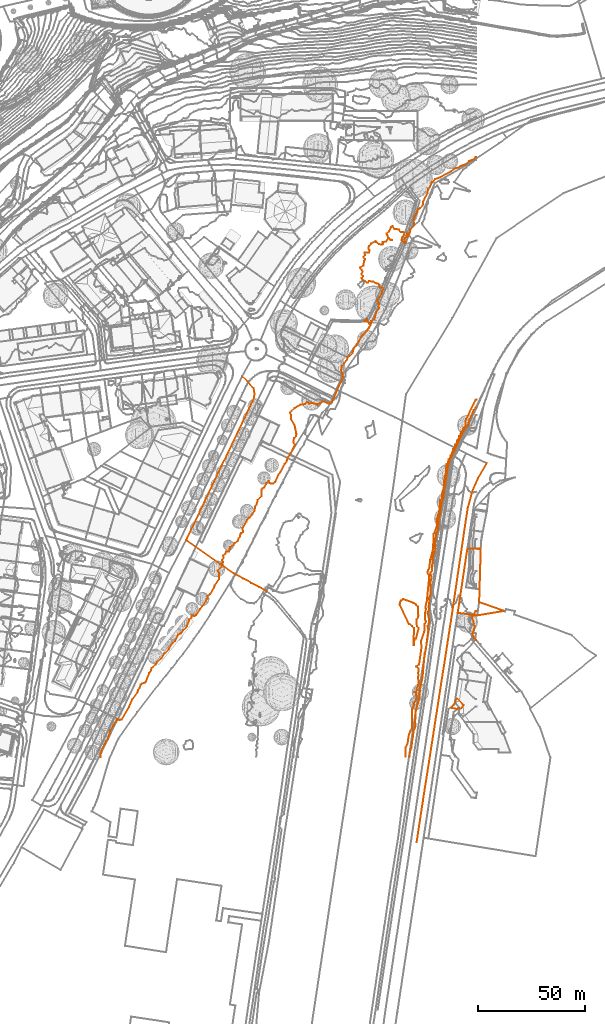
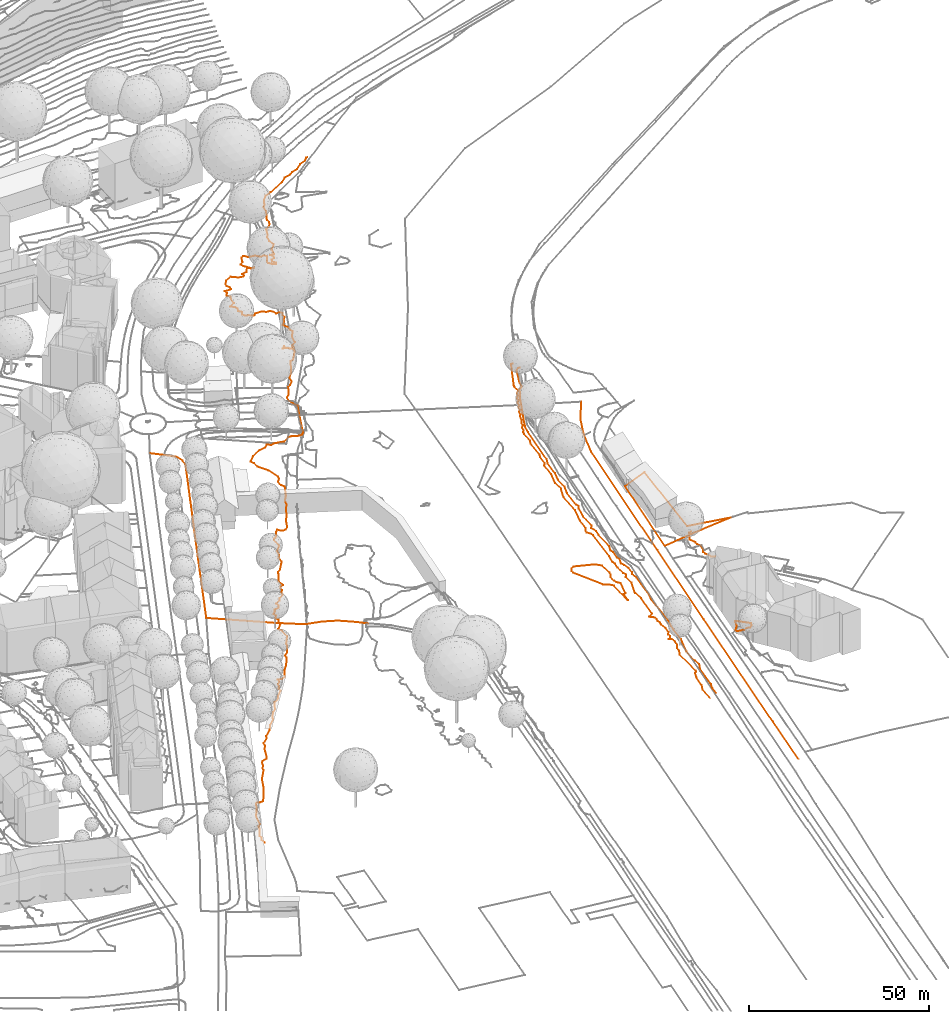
# Not in any storey, part 132 of 494: 11 proxies.
"""IFC2X3 model written with IfcOpenShell, lengths in metres."""

from ifc_helpers import new_model, entity, si_unit, frame, origin_with_axes, place, context, subcontext, project, element, save


model = new_model("IFC2X3")

# Units and contexts
model_context = context("Model", 3, precision=1e-05, world=origin_with_axes())
body_context = subcontext(model_context, "Body", "Model", "MODEL_VIEW")
ifc_project = project(units=[si_unit("AREAUNIT", "SQUARE_METRE"), si_unit("LENGTHUNIT", "METRE")], contexts=[model_context])

# Proxies
proxy_1_placement = place(None, frame((551.9337320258, 100.384740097, 502.425), z_axis=(0.0, 0.0, 1.0), x_axis=(1.0, 0.0, 0.0)))
element("IfcBuildingElementProxy", 1, at=proxy_1_placement, Name="Road 98", ObjectType="NOTDEFINED", context=body_context, shape_type="GeometricCurveSet", body=[
    entity("IfcGeometricCurveSet", [entity("IfcPolyline", [entity("IfcCartesianPoint", [22.561999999, -15.6589995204, -0.541]), entity("IfcCartesianPoint", [15.8319999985, -11.2329996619, -0.436]), entity("IfcCartesianPoint", [0.0, 0.0, 0.0])])]),
])
proxy_2_placement = place(None, frame((659.968732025, -41.4032555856, 502.684), z_axis=(0.0, 0.0, 1.0), x_axis=(1.0, 0.0, 0.0)))
element("IfcBuildingElementProxy", 2, at=proxy_2_placement, Name="Road 166", ObjectType="NOTDEFINED", context=body_context, shape_type="GeometricCurveSet", body=[
    entity("IfcGeometricCurveSet", [entity("IfcPolyline", [entity("IfcCartesianPoint", [0.0, 0.0, 0.0]), entity("IfcCartesianPoint", [2.9470000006, 19.4279994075, -0.104]), entity("IfcCartesianPoint", [11.1699999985, 72.1449978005, -0.144]), entity("IfcCartesianPoint", [16.6039999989, 107.2399967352, 0.012]), entity("IfcCartesianPoint", [23.9450000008, 156.7279952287, 0.844]), entity("IfcCartesianPoint", [26.1490000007, 164.8039949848, 1.302]), entity("IfcCartesianPoint", [28.7919999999, 170.9719947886, 1.366]), entity("IfcCartesianPoint", [32.9029999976, 177.8729945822, 1.809])])]),
])
proxy_3_placement = place(None, frame((574.4957320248, 84.7257405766, 501.884), z_axis=(0.0, 0.0, 1.0), x_axis=(1.0, 0.0, 0.0)))
element("IfcBuildingElementProxy", 3, at=proxy_3_placement, Name="Road 167", ObjectType="NOTDEFINED", context=body_context, shape_type="GeometricCurveSet", body=[
    entity("IfcGeometricCurveSet", [entity("IfcPolyline", [entity("IfcCartesianPoint", [15.4129999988, -8.3829997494, 0.0]), entity("IfcCartesianPoint", [11.6829999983, -6.1879998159, 0.537]), entity("IfcCartesianPoint", [7.993999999, -4.3449998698, 1.073]), entity("IfcCartesianPoint", [4.1810000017, -2.2379999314, 0.805]), entity("IfcCartesianPoint", [0.0, 0.0, 0.0])])]),
])
proxy_4_placement = place(None, frame((551.9337320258, 100.384740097, 502.425), z_axis=(0.0, 0.0, 1.0), x_axis=(1.0, 0.0, 0.0)))
element("IfcBuildingElementProxy", 4, at=proxy_4_placement, Name="Road 177", ObjectType="NOTDEFINED", context=body_context, shape_type="GeometricCurveSet", body=[
    entity("IfcGeometricCurveSet", [entity("IfcPolyline", [entity("IfcCartesianPoint", [26.3079999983, 77.0309976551, -0.082]), entity("IfcCartesianPoint", [29.3239999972, 73.9229977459, 0.118]), entity("IfcCartesianPoint", [31.6259999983, 71.2239978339, 0.334]), entity("IfcCartesianPoint", [32.1019999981, 68.8429979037, 0.391]), entity("IfcCartesianPoint", [31.8640000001, 66.8589979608, 0.402]), entity("IfcCartesianPoint", [30.248999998, 63.289998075, 0.163]), entity("IfcCartesianPoint", [14.3900000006, 30.2499990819, 0.15]), entity("IfcCartesianPoint", [0.0, 0.0, 0.0])])]),
])
proxy_5_placement = place(None, frame((679.2537320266, 66.3477160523, 502.9145301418), z_axis=(0.0, 0.0, 1.0), x_axis=(1.0, 0.0, 0.0)))
element("IfcBuildingElementProxy", 5, at=proxy_5_placement, Name="Cadastre 144", ObjectType="NOTDEFINED", context=body_context, shape_type="GeometricCurveSet", body=[
    entity("IfcGeometricCurveSet", [entity("IfcPolyline", [entity("IfcCartesianPoint", [0.0, 0.0, 0.0]), entity("IfcCartesianPoint", [4.5280000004, 29.996, 0.5515486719]), entity("IfcCartesianPoint", [10.821, 30.1060000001, 3.0081534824]), entity("IfcCartesianPoint", [10.068, 5.003, 0.1758592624]), entity("IfcCartesianPoint", [21.6180000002, 0.888, 1.5063481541]), entity("IfcCartesianPoint", [8.568, -1.2889999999, 2.2475080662]), entity("IfcCartesianPoint", [0.0, 0.0, 0.0])])]),
])
proxy_6_placement = place(None, frame((686.0070766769, 64.1707160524, 504.0), z_axis=(0.0, 0.0, 1.0), x_axis=(1.0, 0.0, 0.0)))
element("IfcBuildingElementProxy", 6, at=proxy_6_placement, Name="Contour Line 504.0 m", ObjectType="NOTDEFINED", context=body_context, shape_type="GeometricCurveSet", body=[
    entity("IfcGeometricCurveSet", [entity("IfcPolyline", [entity("IfcCartesianPoint", [2.1706553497, -10.5457437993, 0.0]), entity("IfcCartesianPoint", [1.6706553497, -10.5457437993, 0.0]), entity("IfcCartesianPoint", [1.0895399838, -10.0, 0.0]), entity("IfcCartesianPoint", [0.3049268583, -8.0, 0.0]), entity("IfcCartesianPoint", [0.2824842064, -7.0, 0.0]), entity("IfcCartesianPoint", [0.865076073, -6.0, 0.0]), entity("IfcCartesianPoint", [1.1362149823, -4.0, 0.0]), entity("IfcCartesianPoint", [0.6549505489, -3.0, 0.0]), entity("IfcCartesianPoint", [0.767345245, -2.0, 0.0]), entity("IfcCartesianPoint", [0.0, 0.0, 0.0]), entity("IfcCartesianPoint", [1.5642024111, 3.0, 0.0]), entity("IfcCartesianPoint", [2.1706553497, 3.1080032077, 0.0])])]),
])
proxy_7_placement = place(None, frame((652.0943986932, 70.1707160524, 501.0), z_axis=(0.0, 0.0, 1.0), x_axis=(1.0, 0.0, 0.0)))
element("IfcBuildingElementProxy", 7, at=proxy_7_placement, Name="Contour Line 501.0 m", ObjectType="NOTDEFINED", context=body_context, shape_type="GeometricCurveSet", body=[
    entity("IfcGeometricCurveSet", [entity("IfcPolyline", [entity("IfcCartesianPoint", [6.6448948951, -19.0, 0.0]), entity("IfcCartesianPoint", [6.4464385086, -19.0, 0.0]), entity("IfcCartesianPoint", [6.6758566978, -11.0, 0.0]), entity("IfcCartesianPoint", [5.8268566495, -10.0, 0.0]), entity("IfcCartesianPoint", [4.3194444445, -9.0, 0.0]), entity("IfcCartesianPoint", [0.0, 0.0, 0.0]), entity("IfcCartesianPoint", [0.0947619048, 1.0, 0.0]), entity("IfcCartesianPoint", [0.5833333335, 2.032715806, 0.0]), entity("IfcCartesianPoint", [1.5833333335, 2.5795454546, 0.0]), entity("IfcCartesianPoint", [6.5833333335, 0.75, 0.0]), entity("IfcCartesianPoint", [7.5833333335, 0.1531531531, 0.0]), entity("IfcCartesianPoint", [8.599937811, -1.0, 0.0]), entity("IfcCartesianPoint", [8.7090065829, -5.0, 0.0]), entity("IfcCartesianPoint", [8.5833333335, -5.9773123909, 0.0]), entity("IfcCartesianPoint", [7.9862345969, -7.0, 0.0]), entity("IfcCartesianPoint", [7.8399562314, -9.0, 0.0]), entity("IfcCartesianPoint", [8.1255510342, -10.0, 0.0]), entity("IfcCartesianPoint", [8.8925960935, -11.0, 0.0]), entity("IfcCartesianPoint", [7.5833333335, -15.803514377, 0.0]), entity("IfcCartesianPoint", [6.9290780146, -16.0, 0.0]), entity("IfcCartesianPoint", [6.6448948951, -19.0, 0.0])])]),
])
proxy_8_placement = place(None, frame((676.3772613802, 22.1707160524, 502.0), z_axis=(0.0, 0.0, 1.0), x_axis=(1.0, 0.0, 0.0)))
element("IfcBuildingElementProxy", 8, at=proxy_8_placement, Name="Contour Line 502.0 m", ObjectType="NOTDEFINED", context=body_context, shape_type="GeometricCurveSet", body=[
    entity("IfcGeometricCurveSet", [entity("IfcPolyline", [entity("IfcCartesianPoint", [4.3004706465, -0.7370658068, 0.0]), entity("IfcCartesianPoint", [5.1871067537, 0.0, 0.0]), entity("IfcCartesianPoint", [5.542231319, 1.0, 0.0]), entity("IfcCartesianPoint", [2.3004706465, 4.0984308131, 0.0]), entity("IfcCartesianPoint", [1.5625724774, 2.0, 0.0]), entity("IfcCartesianPoint", [0.0, 0.0, 0.0]), entity("IfcCartesianPoint", [0.3004706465, -0.4796362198, 0.0]), entity("IfcCartesianPoint", [2.3004706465, -0.8925245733, 0.0]), entity("IfcCartesianPoint", [3.3004706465, -0.4028328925, 0.0]), entity("IfcCartesianPoint", [4.3004706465, -0.7370658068, 0.0])])]),
])
proxy_9_placement = place(None, frame((654.7189893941, -1.3292839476, 501.0), z_axis=(0.0, 0.0, 1.0), x_axis=(1.0, 0.0, 0.0)))
element("IfcBuildingElementProxy", 9, at=proxy_9_placement, Name="Contour Line 501.0 m", ObjectType="NOTDEFINED", context=body_context, shape_type="GeometricCurveSet", body=[
    entity("IfcGeometricCurveSet", [entity("IfcPolyline", [entity("IfcCartesianPoint", [0.0, 0.0, 0.0]), entity("IfcCartesianPoint", [0.1861588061, 4.5, 0.0]), entity("IfcCartesianPoint", [1.0192830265, 6.5, 0.0]), entity("IfcCartesianPoint", [1.6712001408, 10.5, 0.0]), entity("IfcCartesianPoint", [2.3526327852, 12.5, 0.0]), entity("IfcCartesianPoint", [2.9587426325, 12.9377934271, 0.0]), entity("IfcCartesianPoint", [3.1498076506, 13.5, 0.0]), entity("IfcCartesianPoint", [3.2181063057, 22.5, 0.0]), entity("IfcCartesianPoint", [3.9587426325, 24.1120035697, 0.0]), entity("IfcCartesianPoint", [4.1578762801, 25.5, 0.0]), entity("IfcCartesianPoint", [4.9587426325, 26.9393692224, 0.0]), entity("IfcCartesianPoint", [5.2540666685, 28.5, 0.0]), entity("IfcCartesianPoint", [4.9587426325, 30.1140042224, 0.0]), entity("IfcCartesianPoint", [4.3128786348, 30.5, 0.0]), entity("IfcCartesianPoint", [4.9587426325, 30.8105889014, 0.0]), entity("IfcCartesianPoint", [5.3770915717, 31.5, 0.0]), entity("IfcCartesianPoint", [5.2492297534, 32.5, 0.0]), entity("IfcCartesianPoint", [5.9995063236, 33.5, 0.0]), entity("IfcCartesianPoint", [6.2033440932, 35.5, 0.0]), entity("IfcCartesianPoint", [5.9461648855, 37.5, 0.0]), entity("IfcCartesianPoint", [6.2016953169, 38.5, 0.0]), entity("IfcCartesianPoint", [5.9613742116, 39.5, 0.0]), entity("IfcCartesianPoint", [6.2615299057, 40.5, 0.0]), entity("IfcCartesianPoint", [6.1097834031, 41.5, 0.0]), entity("IfcCartesianPoint", [5.0054073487, 42.5, 0.0]), entity("IfcCartesianPoint", [6.4201882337, 43.5, 0.0]), entity("IfcCartesianPoint", [7.5874541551, 51.5, 0.0]), entity("IfcCartesianPoint", [7.3612200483, 54.5, 0.0]), entity("IfcCartesianPoint", [8.9587426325, 59.2462576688, 0.0]), entity("IfcCartesianPoint", [9.0309288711, 62.5, 0.0]), entity("IfcCartesianPoint", [9.692598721, 63.5, 0.0]), entity("IfcCartesianPoint", [9.313280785, 64.5, 0.0]), entity("IfcCartesianPoint", [9.229755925, 67.5, 0.0]), entity("IfcCartesianPoint", [9.6355398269, 69.5, 0.0]), entity("IfcCartesianPoint", [9.3957779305, 70.5, 0.0]), entity("IfcCartesianPoint", [10.083320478, 73.5, 0.0]), entity("IfcCartesianPoint", [11.2067303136, 84.5, 0.0]), entity("IfcCartesianPoint", [11.0092655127, 85.5, 0.0]), entity("IfcCartesianPoint", [10.3364119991, 86.5, 0.0]), entity("IfcCartesianPoint", [10.5471215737, 87.5, 0.0]), entity("IfcCartesianPoint", [11.1857009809, 88.5, 0.0]), entity("IfcCartesianPoint", [11.6531922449, 92.5, 0.0]), entity("IfcCartesianPoint", [12.9799800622, 97.5, 0.0]), entity("IfcCartesianPoint", [13.308264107, 104.5, 0.0]), entity("IfcCartesianPoint", [14.7868592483, 108.5, 0.0]), entity("IfcCartesianPoint", [14.7161625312, 111.5, 0.0]), entity("IfcCartesianPoint", [15.9587426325, 115.9109543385, 0.0]), entity("IfcCartesianPoint", [16.3830432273, 120.5, 0.0]), entity("IfcCartesianPoint", [17.1357897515, 121.5, 0.0]), entity("IfcCartesianPoint", [17.3401966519, 124.5, 0.0]), entity("IfcCartesianPoint", [17.9587426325, 125.7995361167, 0.0]), entity("IfcCartesianPoint", [18.3416618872, 131.5, 0.0]), entity("IfcCartesianPoint", [18.9587426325, 132.8432852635, 0.0]), entity("IfcCartesianPoint", [19.2085448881, 136.5, 0.0]), entity("IfcCartesianPoint", [19.4245384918, 137.5, 0.0]), entity("IfcCartesianPoint", [19.9587426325, 138.035171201, 0.0]), entity("IfcCartesianPoint", [20.2469040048, 139.5, 0.0]), entity("IfcCartesianPoint", [20.9587426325, 140.3407645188, 0.0]), entity("IfcCartesianPoint", [21.1934048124, 141.5, 0.0]), entity("IfcCartesianPoint", [21.9587426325, 142.6786762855, 0.0]), entity("IfcCartesianPoint", [22.428460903, 144.5, 0.0]), entity("IfcCartesianPoint", [22.9587426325, 145.0289729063, 0.0]), entity("IfcCartesianPoint", [23.3146253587, 146.5, 0.0]), entity("IfcCartesianPoint", [23.9587426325, 147.1382577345, 0.0]), entity("IfcCartesianPoint", [24.2854182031, 148.5, 0.0]), entity("IfcCartesianPoint", [24.9587426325, 149.2314033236, 0.0]), entity("IfcCartesianPoint", [25.219486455, 150.5, 0.0]), entity("IfcCartesianPoint", [25.9587426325, 151.4485985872, 0.0]), entity("IfcCartesianPoint", [26.2018128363, 152.5, 0.0]), entity("IfcCartesianPoint", [26.9883266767, 153.5, 0.0]), entity("IfcCartesianPoint", [27.2685391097, 154.5, 0.0]), entity("IfcCartesianPoint", [28.2082158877, 155.5, 0.0]), entity("IfcCartesianPoint", [28.1526992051, 157.5, 0.0]), entity("IfcCartesianPoint", [28.5525394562, 158.5, 0.0]), entity("IfcCartesianPoint", [32.8610063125, 167.5, 0.0]), entity("IfcCartesianPoint", [33.4587426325, 167.6677715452, 0.0])])]),
])
proxy_10_placement = place(None, frame((511.7919351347, 0.1707160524, 502.0), z_axis=(0.0, 0.0, 1.0), x_axis=(1.0, 0.0, 0.0)))
element("IfcBuildingElementProxy", 10, at=proxy_10_placement, Name="Contour Line 502.0 m", ObjectType="NOTDEFINED", context=body_context, shape_type="GeometricCurveSet", body=[
    entity("IfcGeometricCurveSet", [entity("IfcPolyline", [entity("IfcCartesianPoint", [176.385796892, 279.8864550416, 0.0]), entity("IfcCartesianPoint", [175.885796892, 279.8864550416, 0.0]), entity("IfcCartesianPoint", [174.885796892, 278.7788389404, 0.0]), entity("IfcCartesianPoint", [172.885796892, 278.0090628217, 0.0]), entity("IfcCartesianPoint", [170.885796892, 276.3150613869, 0.0]), entity("IfcCartesianPoint", [168.885796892, 275.7018356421, 0.0]), entity("IfcCartesianPoint", [167.885796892, 274.9087447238, 0.0]), entity("IfcCartesianPoint", [165.885796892, 274.4529287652, 0.0]), entity("IfcCartesianPoint", [164.1430818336, 273.0, 0.0]), entity("IfcCartesianPoint", [158.885796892, 270.236204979, 0.0]), entity("IfcCartesianPoint", [156.885796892, 269.4977205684, 0.0]), entity("IfcCartesianPoint", [155.4767943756, 268.0, 0.0]), entity("IfcCartesianPoint", [154.482165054, 266.0, 0.0]), entity("IfcCartesianPoint", [153.6249102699, 265.0, 0.0]), entity("IfcCartesianPoint", [153.2908210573, 263.0, 0.0]), entity("IfcCartesianPoint", [151.2502983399, 259.0, 0.0]), entity("IfcCartesianPoint", [151.3030442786, 258.0, 0.0]), entity("IfcCartesianPoint", [150.9619360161, 257.0, 0.0]), entity("IfcCartesianPoint", [149.885796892, 255.9105575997, 0.0]), entity("IfcCartesianPoint", [148.885796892, 255.3437175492, 0.0]), entity("IfcCartesianPoint", [148.0087588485, 253.0, 0.0]), entity("IfcCartesianPoint", [147.2869256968, 252.0, 0.0]), entity("IfcCartesianPoint", [146.8161815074, 250.0, 0.0]), entity("IfcCartesianPoint", [147.0707393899, 248.0, 0.0]), entity("IfcCartesianPoint", [145.3021683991, 246.0, 0.0]), entity("IfcCartesianPoint", [144.885796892, 243.922310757, 0.0]), entity("IfcCartesianPoint", [143.6581904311, 244.0, 0.0]), entity("IfcCartesianPoint", [144.079176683, 243.0, 0.0]), entity("IfcCartesianPoint", [143.885796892, 242.2487309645, 0.0]), entity("IfcCartesianPoint", [142.885796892, 241.8047079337, 0.0]), entity("IfcCartesianPoint", [142.4894894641, 241.0, 0.0]), entity("IfcCartesianPoint", [143.1498711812, 240.0, 0.0]), entity("IfcCartesianPoint", [142.885796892, 239.4792064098, 0.0]), entity("IfcCartesianPoint", [141.9684581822, 240.0, 0.0]), entity("IfcCartesianPoint", [141.169910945, 241.0, 0.0]), entity("IfcCartesianPoint", [141.4166957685, 242.0, 0.0]), entity("IfcCartesianPoint", [142.5594941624, 244.0, 0.0]), entity("IfcCartesianPoint", [141.885796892, 244.769666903, 0.0]), entity("IfcCartesianPoint", [140.885796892, 244.5820528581, 0.0]), entity("IfcCartesianPoint", [139.885796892, 245.7989468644, 0.0]), entity("IfcCartesianPoint", [137.885796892, 246.1899482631, 0.0]), entity("IfcCartesianPoint", [136.885796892, 247.4192691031, 0.0]), entity("IfcCartesianPoint", [136.1654772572, 247.0, 0.0]), entity("IfcCartesianPoint", [135.2984589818, 245.0, 0.0]), entity("IfcCartesianPoint", [134.1884788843, 244.0, 0.0]), entity("IfcCartesianPoint", [134.5166155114, 243.0, 0.0]), entity("IfcCartesianPoint", [135.885796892, 241.1721854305, 0.0]), entity("IfcCartesianPoint", [136.6857968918, 241.0, 0.0]), entity("IfcCartesianPoint", [135.885796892, 240.9545454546, 0.0]), entity("IfcCartesianPoint", [134.885796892, 241.8002270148, 0.0]), entity("IfcCartesianPoint", [133.885796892, 240.2342487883, 0.0]), entity("IfcCartesianPoint", [132.3119244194, 240.0, 0.0]), entity("IfcCartesianPoint", [132.4001118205, 239.0, 0.0]), entity("IfcCartesianPoint", [131.885796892, 238.7138794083, 0.0]), entity("IfcCartesianPoint", [130.613587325, 239.0, 0.0]), entity("IfcCartesianPoint", [129.1207273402, 240.0, 0.0]), entity("IfcCartesianPoint", [128.885796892, 240.4662576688, 0.0]), entity("IfcCartesianPoint", [126.885796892, 239.3730272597, 0.0]), entity("IfcCartesianPoint", [125.7955138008, 238.0, 0.0]), entity("IfcCartesianPoint", [125.6628749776, 237.0, 0.0]), entity("IfcCartesianPoint", [126.0979740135, 236.0, 0.0]), entity("IfcCartesianPoint", [125.885796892, 235.0980392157, 0.0]), entity("IfcCartesianPoint", [123.885796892, 235.1536050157, 0.0]), entity("IfcCartesianPoint", [123.9622431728, 234.0, 0.0]), entity("IfcCartesianPoint", [123.3170236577, 233.0, 0.0]), entity("IfcCartesianPoint", [123.9716411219, 232.0, 0.0]), entity("IfcCartesianPoint", [123.5412022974, 231.0, 0.0]), entity("IfcCartesianPoint", [123.3306157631, 229.0, 0.0]), entity("IfcCartesianPoint", [121.6032361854, 228.0, 0.0]), entity("IfcCartesianPoint", [122.5026447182, 227.0, 0.0]), entity("IfcCartesianPoint", [122.885796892, 226.1075949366, 0.0]), entity("IfcCartesianPoint", [122.3356508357, 225.0, 0.0]), entity("IfcCartesianPoint", [123.1435488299, 224.0, 0.0]), entity("IfcCartesianPoint", [122.4447591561, 223.0, 0.0]), entity("IfcCartesianPoint", [122.885796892, 222.1220657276, 0.0]), entity("IfcCartesianPoint", [123.885796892, 221.7327935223, 0.0]), entity("IfcCartesianPoint", [124.885796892, 220.8897849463, 0.0]), entity("IfcCartesianPoint", [125.3517059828, 221.0, 0.0]), entity("IfcCartesianPoint", [125.885796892, 221.6103896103, 0.0]), entity("IfcCartesianPoint", [127.885796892, 221.5230088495, 0.0]), entity("IfcCartesianPoint", [128.885796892, 220.6598101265, 0.0]), entity("IfcCartesianPoint", [129.885796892, 220.5958333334, 0.0]), entity("IfcCartesianPoint", [130.581660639, 220.0, 0.0]), entity("IfcCartesianPoint", [130.885796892, 218.6945169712, 0.0]), entity("IfcCartesianPoint", [131.885796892, 218.7448352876, 0.0]), entity("IfcCartesianPoint", [132.6322994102, 218.0, 0.0]), entity("IfcCartesianPoint", [132.0654115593, 217.0, 0.0]), entity("IfcCartesianPoint", [132.0729861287, 216.0, 0.0]), entity("IfcCartesianPoint", [131.1982409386, 215.0, 0.0]), entity("IfcCartesianPoint", [130.885796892, 214.1535974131, 0.0]), entity("IfcCartesianPoint", [129.6730137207, 213.0, 0.0]), entity("IfcCartesianPoint", [130.5419411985, 211.0, 0.0]), entity("IfcCartesianPoint", [130.2940030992, 210.0, 0.0]), entity("IfcCartesianPoint", [130.6424843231, 209.0, 0.0]), entity("IfcCartesianPoint", [129.2159073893, 207.0, 0.0]), entity("IfcCartesianPoint", [128.4408125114, 204.0, 0.0]), entity("IfcCartesianPoint", [126.9628155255, 203.0, 0.0]), entity("IfcCartesianPoint", [126.885796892, 202.1308411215, 0.0]), entity("IfcCartesianPoint", [125.885796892, 202.0177514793, 0.0]), entity("IfcCartesianPoint", [124.9218015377, 203.0, 0.0]), entity("IfcCartesianPoint", [124.885796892, 203.8857142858, 0.0]), entity("IfcCartesianPoint", [123.885796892, 203.0339985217, 0.0]), entity("IfcCartesianPoint", [124.885796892, 202.943430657, 0.0]), entity("IfcCartesianPoint", [125.885796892, 201.9888641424, 0.0]), entity("IfcCartesianPoint", [126.5123255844, 201.0, 0.0]), entity("IfcCartesianPoint", [126.0121868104, 200.0, 0.0]), entity("IfcCartesianPoint", [123.885796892, 197.06265616, 0.0]), entity("IfcCartesianPoint", [122.885796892, 196.7407647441, 0.0]), entity("IfcCartesianPoint", [120.3477929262, 192.0, 0.0]), entity("IfcCartesianPoint", [118.6463316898, 190.0, 0.0]), entity("IfcCartesianPoint", [118.1635581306, 188.0, 0.0]), entity("IfcCartesianPoint", [116.885796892, 186.6661277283, 0.0]), entity("IfcCartesianPoint", [115.885796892, 186.1045696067, 0.0]), entity("IfcCartesianPoint", [115.5072837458, 185.0, 0.0]), entity("IfcCartesianPoint", [114.2372294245, 183.0, 0.0]), entity("IfcCartesianPoint", [113.1996874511, 182.0, 0.0]), entity("IfcCartesianPoint", [112.8950221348, 180.0, 0.0]), entity("IfcCartesianPoint", [113.7308286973, 177.0, 0.0]), entity("IfcCartesianPoint", [108.5468794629, 165.0, 0.0]), entity("IfcCartesianPoint", [107.885796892, 164.3385130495, 0.0]), entity("IfcCartesianPoint", [106.885796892, 164.191723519, 0.0]), entity("IfcCartesianPoint", [104.885796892, 165.1003823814, 0.0]), entity("IfcCartesianPoint", [103.885796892, 165.1112334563, 0.0]), entity("IfcCartesianPoint", [101.885796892, 163.9167315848, 0.0]), entity("IfcCartesianPoint", [98.885796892, 164.5248466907, 0.0]), entity("IfcCartesianPoint", [97.885796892, 164.2928571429, 0.0]), entity("IfcCartesianPoint", [96.885796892, 164.9919743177, 0.0]), entity("IfcCartesianPoint", [95.8294294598, 164.0, 0.0]), entity("IfcCartesianPoint", [93.885796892, 163.7298803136, 0.0]), entity("IfcCartesianPoint", [90.885796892, 162.2253895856, 0.0]), entity("IfcCartesianPoint", [88.885796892, 160.0420939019, 0.0]), entity("IfcCartesianPoint", [89.3203286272, 159.0, 0.0]), entity("IfcCartesianPoint", [89.4066441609, 157.0, 0.0]), entity("IfcCartesianPoint", [91.0925609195, 154.0, 0.0]), entity("IfcCartesianPoint", [91.8130763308, 150.0, 0.0]), entity("IfcCartesianPoint", [91.6326253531, 149.0, 0.0]), entity("IfcCartesianPoint", [90.7101611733, 148.0, 0.0]), entity("IfcCartesianPoint", [90.4793191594, 146.0, 0.0]), entity("IfcCartesianPoint", [91.1475080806, 145.0, 0.0]), entity("IfcCartesianPoint", [89.1784714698, 141.0, 0.0]), entity("IfcCartesianPoint", [87.7590907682, 139.0, 0.0]), entity("IfcCartesianPoint", [87.1755737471, 137.0, 0.0]), entity("IfcCartesianPoint", [86.3052471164, 136.0, 0.0]), entity("IfcCartesianPoint", [84.2860730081, 132.0, 0.0]), entity("IfcCartesianPoint", [83.4078886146, 131.0, 0.0]), entity("IfcCartesianPoint", [81.885796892, 127.591230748, 0.0]), entity("IfcCartesianPoint", [80.885796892, 126.7966180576, 0.0]), entity("IfcCartesianPoint", [79.885796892, 126.710254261, 0.0]), entity("IfcCartesianPoint", [79.3787064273, 127.0, 0.0]), entity("IfcCartesianPoint", [78.885796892, 127.9762711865, 0.0]), entity("IfcCartesianPoint", [77.9424183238, 127.0, 0.0]), entity("IfcCartesianPoint", [76.7275690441, 125.0, 0.0]), entity("IfcCartesianPoint", [75.885796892, 124.5189873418, 0.0]), entity("IfcCartesianPoint", [75.6122029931, 124.0, 0.0]), entity("IfcCartesianPoint", [75.4878911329, 121.0, 0.0]), entity("IfcCartesianPoint", [73.7342817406, 119.0, 0.0]), entity("IfcCartesianPoint", [73.1509097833, 117.0, 0.0]), entity("IfcCartesianPoint", [72.4871516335, 116.0, 0.0]), entity("IfcCartesianPoint", [72.236902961, 114.0, 0.0]), entity("IfcCartesianPoint", [69.885796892, 110.8038632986, 0.0]), entity("IfcCartesianPoint", [68.7196644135, 110.0, 0.0]), entity("IfcCartesianPoint", [68.3925930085, 109.0, 0.0]), entity("IfcCartesianPoint", [66.5893164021, 106.0, 0.0]), entity("IfcCartesianPoint", [66.885796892, 103.9529003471, 0.0]), entity("IfcCartesianPoint", [65.885796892, 103.5372921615, 0.0]), entity("IfcCartesianPoint", [65.5554814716, 103.0, 0.0]), entity("IfcCartesianPoint", [65.4496019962, 102.0, 0.0]), entity("IfcCartesianPoint", [64.688182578, 101.0, 0.0]), entity("IfcCartesianPoint", [64.5042849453, 100.0, 0.0]), entity("IfcCartesianPoint", [62.885796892, 98.8233160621, 0.0]), entity("IfcCartesianPoint", [62.2732294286, 98.0, 0.0]), entity("IfcCartesianPoint", [60.6503296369, 97.0, 0.0]), entity("IfcCartesianPoint", [60.7909439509, 96.0, 0.0]), entity("IfcCartesianPoint", [60.2467545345, 95.0, 0.0]), entity("IfcCartesianPoint", [58.885796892, 94.813111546, 0.0]), entity("IfcCartesianPoint", [58.5350159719, 94.0, 0.0]), entity("IfcCartesianPoint", [57.5051740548, 93.0, 0.0]), entity("IfcCartesianPoint", [57.7481015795, 92.0, 0.0]), entity("IfcCartesianPoint", [56.9622443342, 91.0, 0.0]), entity("IfcCartesianPoint", [57.4037112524, 90.0, 0.0]), entity("IfcCartesianPoint", [56.8949510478, 89.0, 0.0]), entity("IfcCartesianPoint", [56.8727628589, 88.0, 0.0]), entity("IfcCartesianPoint", [54.9906919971, 86.0, 0.0]), entity("IfcCartesianPoint", [55.5640613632, 85.0, 0.0]), entity("IfcCartesianPoint", [55.5310830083, 82.0, 0.0]), entity("IfcCartesianPoint", [53.486941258, 79.0, 0.0]), entity("IfcCartesianPoint", [53.218066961, 78.0, 0.0]), entity("IfcCartesianPoint", [51.3988212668, 75.0, 0.0]), entity("IfcCartesianPoint", [50.2747776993, 74.0, 0.0]), entity("IfcCartesianPoint", [50.1979165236, 73.0, 0.0]), entity("IfcCartesianPoint", [48.2836371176, 70.0, 0.0]), entity("IfcCartesianPoint", [46.6309984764, 68.0, 0.0]), entity("IfcCartesianPoint", [44.885796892, 65.0649226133, 0.0]), entity("IfcCartesianPoint", [43.885796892, 64.747449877, 0.0]), entity("IfcCartesianPoint", [42.601910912, 65.0, 0.0]), entity("IfcCartesianPoint", [42.6230029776, 64.0, 0.0]), entity("IfcCartesianPoint", [41.6185726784, 63.0, 0.0]), entity("IfcCartesianPoint", [41.4015144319, 62.0, 0.0]), entity("IfcCartesianPoint", [40.7309376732, 61.0, 0.0]), entity("IfcCartesianPoint", [40.6542274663, 60.0, 0.0]), entity("IfcCartesianPoint", [38.7666073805, 58.0, 0.0]), entity("IfcCartesianPoint", [37.885796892, 56.6501917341, 0.0]), entity("IfcCartesianPoint", [36.4740864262, 56.0, 0.0]), entity("IfcCartesianPoint", [34.885796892, 53.0219490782, 0.0]), entity("IfcCartesianPoint", [33.7137440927, 52.0, 0.0]), entity("IfcCartesianPoint", [32.3434471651, 50.0, 0.0]), entity("IfcCartesianPoint", [31.9725924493, 49.0, 0.0]), entity("IfcCartesianPoint", [29.885796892, 46.9740552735, 0.0]), entity("IfcCartesianPoint", [28.5441738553, 45.0, 0.0]), entity("IfcCartesianPoint", [26.3261205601, 43.0, 0.0]), entity("IfcCartesianPoint", [25.885796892, 41.9660169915, 0.0]), entity("IfcCartesianPoint", [23.885796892, 40.2962180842, 0.0]), entity("IfcCartesianPoint", [23.6565610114, 39.0, 0.0]), entity("IfcCartesianPoint", [22.885796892, 37.9916180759, 0.0]), entity("IfcCartesianPoint", [21.295859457, 34.0, 0.0]), entity("IfcCartesianPoint", [20.885796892, 33.4801718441, 0.0]), entity("IfcCartesianPoint", [19.4342904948, 33.0, 0.0]), entity("IfcCartesianPoint", [18.885796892, 32.488846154, 0.0]), entity("IfcCartesianPoint", [18.3541096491, 31.0, 0.0]), entity("IfcCartesianPoint", [17.6110111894, 30.0, 0.0]), entity("IfcCartesianPoint", [17.3851404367, 29.0, 0.0]), entity("IfcCartesianPoint", [14.885796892, 25.6263396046, 0.0]), entity("IfcCartesianPoint", [13.3173073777, 22.0, 0.0]), entity("IfcCartesianPoint", [9.885796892, 16.1783066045, 0.0]), entity("IfcCartesianPoint", [8.885796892, 15.9699773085, 0.0]), entity("IfcCartesianPoint", [7.885796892, 16.2788917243, 0.0]), entity("IfcCartesianPoint", [7.4756825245, 16.0, 0.0]), entity("IfcCartesianPoint", [5.9702402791, 13.0, 0.0]), entity("IfcCartesianPoint", [4.5202534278, 11.0, 0.0]), entity("IfcCartesianPoint", [3.4939760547, 7.0, 0.0]), entity("IfcCartesianPoint", [2.5576592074, 6.0, 0.0]), entity("IfcCartesianPoint", [2.2440058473, 5.0, 0.0]), entity("IfcCartesianPoint", [0.4759148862, 2.0, 0.0]), entity("IfcCartesianPoint", [0.5522456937, 1.0, 0.0]), entity("IfcCartesianPoint", [0.0, 0.0, 0.0]), entity("IfcCartesianPoint", [0.0245869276, -1.5, 0.0])])]),
])
proxy_11_placement = place(None, frame((656.6722800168, -1.3292839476, 502.0), z_axis=(0.0, 0.0, 1.0), x_axis=(1.0, 0.0, 0.0)))
element("IfcBuildingElementProxy", 11, at=proxy_11_placement, Name="Contour Line 502.0 m", ObjectType="NOTDEFINED", context=body_context, shape_type="GeometricCurveSet", body=[
    entity("IfcGeometricCurveSet", [entity("IfcPolyline", [entity("IfcCartesianPoint", [0.0, 0.0, 0.0]), entity("IfcCartesianPoint", [0.1929562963, 2.5, 0.0]), entity("IfcCartesianPoint", [0.8743790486, 4.5, 0.0]), entity("IfcCartesianPoint", [1.9489487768, 12.5, 0.0]), entity("IfcCartesianPoint", [2.9229926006, 14.5, 0.0]), entity("IfcCartesianPoint", [2.6579135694, 16.5, 0.0]), entity("IfcCartesianPoint", [2.8592426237, 21.5, 0.0]), entity("IfcCartesianPoint", [4.5520047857, 27.5, 0.0]), entity("IfcCartesianPoint", [5.0292531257, 32.5, 0.0]), entity("IfcCartesianPoint", [6.1056976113, 37.5, 0.0]), entity("IfcCartesianPoint", [7.0739294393, 48.5, 0.0]), entity("IfcCartesianPoint", [7.6217176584, 50.5, 0.0]), entity("IfcCartesianPoint", [8.833788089, 59.5, 0.0]), entity("IfcCartesianPoint", [8.465388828, 61.5, 0.0]), entity("IfcCartesianPoint", [9.0054520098, 62.370601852, 0.0]), entity("IfcCartesianPoint", [9.1369812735, 64.5, 0.0]), entity("IfcCartesianPoint", [8.8676268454, 66.5, 0.0]), entity("IfcCartesianPoint", [8.4168795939, 67.5, 0.0]), entity("IfcCartesianPoint", [9.1599134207, 69.5, 0.0]), entity("IfcCartesianPoint", [8.9293709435, 70.5, 0.0]), entity("IfcCartesianPoint", [9.3604220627, 73.5, 0.0]), entity("IfcCartesianPoint", [9.0780270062, 74.5, 0.0]), entity("IfcCartesianPoint", [9.8571508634, 76.5, 0.0]), entity("IfcCartesianPoint", [9.977755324, 82.5, 0.0]), entity("IfcCartesianPoint", [10.3294875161, 84.5, 0.0]), entity("IfcCartesianPoint", [9.7587790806, 86.5, 0.0]), entity("IfcCartesianPoint", [10.5867405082, 87.5, 0.0]), entity("IfcCartesianPoint", [10.7418305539, 92.5, 0.0]), entity("IfcCartesianPoint", [11.6372609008, 96.5, 0.0]), entity("IfcCartesianPoint", [12.1307570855, 97.5, 0.0]), entity("IfcCartesianPoint", [11.8952689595, 98.5, 0.0]), entity("IfcCartesianPoint", [12.4533237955, 104.5, 0.0]), entity("IfcCartesianPoint", [13.4390338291, 107.5, 0.0]), entity("IfcCartesianPoint", [13.5987039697, 111.5, 0.0]), entity("IfcCartesianPoint", [14.4186858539, 114.5, 0.0]), entity("IfcCartesianPoint", [14.9888565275, 119.5, 0.0]), entity("IfcCartesianPoint", [15.7884611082, 121.5, 0.0]), entity("IfcCartesianPoint", [17.8610727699, 135.5, 0.0]), entity("IfcCartesianPoint", [18.5951369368, 138.5, 0.0]), entity("IfcCartesianPoint", [24.5214594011, 151.5, 0.0]), entity("IfcCartesianPoint", [26.2256524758, 154.5, 0.0]), entity("IfcCartesianPoint", [27.366230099, 155.5, 0.0]), entity("IfcCartesianPoint", [27.8761612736, 157.5, 0.0]), entity("IfcCartesianPoint", [30.0054520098, 162.8184253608, 0.0]), entity("IfcCartesianPoint", [31.0054520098, 163.8051730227, 0.0]), entity("IfcCartesianPoint", [31.5054520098, 163.8051730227, 0.0])])]),
])

save(model, "model.ifc")
